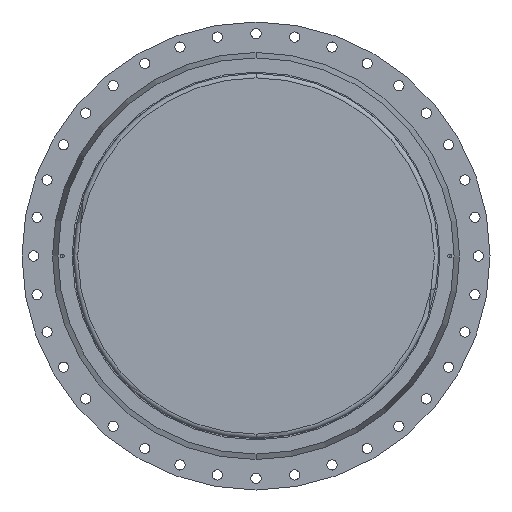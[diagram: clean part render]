
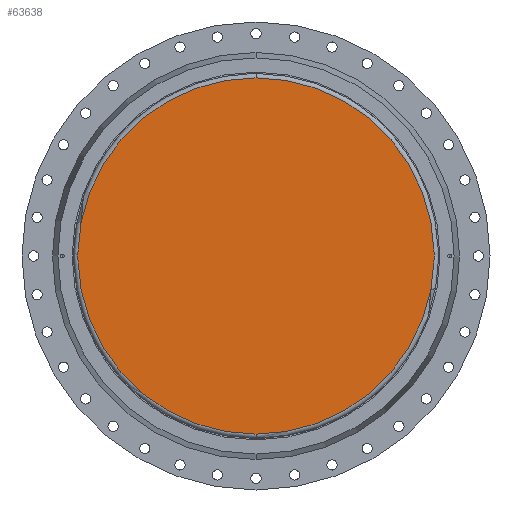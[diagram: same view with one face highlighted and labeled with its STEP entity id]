
A CAD part, front view. The second image highlights one B-rep face of the part: STEP entity #63638.
In plain terms, the highlighted planar face has unit normal (0, -1, 0).
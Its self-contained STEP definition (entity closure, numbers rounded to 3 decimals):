
#657 = VECTOR ( 'NONE', #97785, 1000. ) ;
#1973 = AXIS2_PLACEMENT_3D ( 'NONE', #83635, #181492, #97689 ) ;
#2120 = EDGE_CURVE ( 'NONE', #54075, #95984, #106269, .T. ) ;
#2535 = CARTESIAN_POINT ( 'NONE',  ( -624.953, -1805., 13.822 ) ) ;
#3917 = CARTESIAN_POINT ( 'NONE',  ( 624.845, -1805., -13.908 ) ) ;
#5657 = AXIS2_PLACEMENT_3D ( 'NONE', #143360, #59430, #157465 ) ;
#7224 = CARTESIAN_POINT ( 'NONE',  ( -625., -1805., 13.91 ) ) ;
#7402 = VERTEX_POINT ( 'NONE', #136288 ) ;
#7423 = CIRCLE ( 'NONE', #147427, 625. ) ;
#10327 = CARTESIAN_POINT ( 'NONE',  ( 625., -1805., -13.785 ) ) ;
#10462 = CARTESIAN_POINT ( 'NONE',  ( 624.953, -1805., 13.822 ) ) ;
#13560 = EDGE_CURVE ( 'NONE', #77395, #54075, #145345, .T. ) ;
#13851 = CARTESIAN_POINT ( 'NONE',  ( 625., -1805., 13.785 ) ) ;
#14174 = EDGE_CURVE ( 'NONE', #90483, #48086, #103335, .T. ) ;
#15875 = CARTESIAN_POINT ( 'NONE',  ( -624.953, -1805., -13.822 ) ) ;
#15933 = ORIENTED_EDGE ( 'NONE', *, *, #114416, .F. ) ;
#17437 = DIRECTION ( 'NONE',  ( 0., 1., 0. ) ) ;
#19658 = EDGE_CURVE ( 'NONE', #46601, #168996, #48098, .T. ) ;
#21695 = ORIENTED_EDGE ( 'NONE', *, *, #14174, .F. ) ;
#21838 = CARTESIAN_POINT ( 'NONE',  ( 0., -1805., 0. ) ) ;
#26006 = VERTEX_POINT ( 'NONE', #115830 ) ;
#26746 = PLANE ( 'NONE',  #1973 ) ;
#27348 = CARTESIAN_POINT ( 'NONE',  ( -625., -1805., 13.91 ) ) ;
#28688 = CARTESIAN_POINT ( 'NONE',  ( -625., -1805., -13.785 ) ) ;
#30119 = CARTESIAN_POINT ( 'NONE',  ( -624.845, -1805., 13.908 ) ) ;
#31698 = VECTOR ( 'NONE', #166912, 1000. ) ;
#35736 = B_SPLINE_CURVE_WITH_KNOTS ( 'NONE', 3,
 ( #30119, #128196, #72329, #170407, #86521, #2535, #100537 ),
 .UNSPECIFIED., .F., .F.,
 ( 4, 3, 4 ),
 ( 0., 0., 0. ),
 .UNSPECIFIED. ) ;
#35822 = DIRECTION ( 'NONE',  ( 0., 0., 1. ) ) ;
#38565 = CARTESIAN_POINT ( 'NONE',  ( 624.86, -1805., 13.896 ) ) ;
#42676 = EDGE_CURVE ( 'NONE', #95984, #115082, #152016, .T. ) ;
#43111 = FACE_OUTER_BOUND ( 'NONE', #178765, .T. ) ;
#46601 = VERTEX_POINT ( 'NONE', #80375 ) ;
#48086 = VERTEX_POINT ( 'NONE', #172385 ) ;
#48098 = LINE ( 'NONE', #27348, #81078 ) ;
#48321 = B_SPLINE_CURVE_WITH_KNOTS ( 'NONE', 3,
 ( #3917, #87869, #144149, #60208, #158241, #74332, #172328 ),
 .UNSPECIFIED., .F., .F.,
 ( 4, 3, 4 ),
 ( 0., 0., 0. ),
 .UNSPECIFIED. ) ;
#52599 = CARTESIAN_POINT ( 'NONE',  ( 624.85, -1805., 13.904 ) ) ;
#54075 = VERTEX_POINT ( 'NONE', #84626 ) ;
#58027 = CARTESIAN_POINT ( 'NONE',  ( -624.86, -1805., -13.896 ) ) ;
#58084 = CIRCLE ( 'NONE', #5657, 625. ) ;
#59430 = DIRECTION ( 'NONE',  ( 0., 1., 0. ) ) ;
#60208 = CARTESIAN_POINT ( 'NONE',  ( 624.86, -1805., -13.896 ) ) ;
#60963 = EDGE_CURVE ( 'NONE', #26006, #168996, #35736, .T. ) ;
#61157 = ORIENTED_EDGE ( 'NONE', *, *, #164087, .F. ) ;
#63638 = ADVANCED_FACE ( 'NONE', ( #43111 ), #26746, .T. ) ;
#63707 = DIRECTION ( 'NONE',  ( 0., 1., 0. ) ) ;
#64492 = CARTESIAN_POINT ( 'NONE',  ( -625., -1805., 13.785 ) ) ;
#72110 = CARTESIAN_POINT ( 'NONE',  ( -624.85, -1805., -13.904 ) ) ;
#72329 = CARTESIAN_POINT ( 'NONE',  ( -624.855, -1805., 13.9 ) ) ;
#74332 = CARTESIAN_POINT ( 'NONE',  ( 624.953, -1805., -13.822 ) ) ;
#74845 = ORIENTED_EDGE ( 'NONE', *, *, #84725, .F. ) ;
#76426 = ORIENTED_EDGE ( 'NONE', *, *, #13560, .T. ) ;
#77042 = DIRECTION ( 'NONE',  ( 0., 0., 1. ) ) ;
#77395 = VERTEX_POINT ( 'NONE', #10327 ) ;
#77750 = ORIENTED_EDGE ( 'NONE', *, *, #177002, .T. ) ;
#79272 = CARTESIAN_POINT ( 'NONE',  ( 0., -1805., -625. ) ) ;
#80375 = CARTESIAN_POINT ( 'NONE',  ( -625., -1805., 0. ) ) ;
#81078 = VECTOR ( 'NONE', #169961, 1000. ) ;
#83635 = CARTESIAN_POINT ( 'NONE',  ( -625., -1805., 0. ) ) ;
#84626 = CARTESIAN_POINT ( 'NONE',  ( 625., -1805., 0. ) ) ;
#84725 = EDGE_CURVE ( 'NONE', #7402, #90483, #126453, .T. ) ;
#85953 = CARTESIAN_POINT ( 'NONE',  ( 0., -1805., 625. ) ) ;
#86521 = CARTESIAN_POINT ( 'NONE',  ( -624.907, -1805., 13.859 ) ) ;
#87869 = CARTESIAN_POINT ( 'NONE',  ( 624.85, -1805., -13.904 ) ) ;
#90483 = VERTEX_POINT ( 'NONE', #79272 ) ;
#90805 = EDGE_CURVE ( 'NONE', #26006, #135183, #58084, .T. ) ;
#95984 = VERTEX_POINT ( 'NONE', #13851 ) ;
#96130 = ORIENTED_EDGE ( 'NONE', *, *, #42676, .T. ) ;
#97689 = DIRECTION ( 'NONE',  ( 0., 0., -1. ) ) ;
#97785 = DIRECTION ( 'NONE',  ( 0., 0., 1. ) ) ;
#100537 = CARTESIAN_POINT ( 'NONE',  ( -625., -1805., 13.785 ) ) ;
#101220 = CARTESIAN_POINT ( 'NONE',  ( 0., -1805., 0. ) ) ;
#101820 = B_SPLINE_CURVE_WITH_KNOTS ( 'NONE', 3,
 ( #113837, #15875, #141972, #58027, #156044, #72110, #170179 ),
 .UNSPECIFIED., .F., .F.,
 ( 4, 3, 4 ),
 ( 0., 0., 0. ),
 .UNSPECIFIED. ) ;
#103335 = CIRCLE ( 'NONE', #107005, 625. ) ;
#106269 = LINE ( 'NONE', #162941, #31698 ) ;
#107005 = AXIS2_PLACEMENT_3D ( 'NONE', #101220, #17437, #115344 ) ;
#113837 = CARTESIAN_POINT ( 'NONE',  ( -625., -1805., -13.785 ) ) ;
#114416 = EDGE_CURVE ( 'NONE', #135183, #115082, #7423, .T. ) ;
#115082 = VERTEX_POINT ( 'NONE', #148631 ) ;
#115344 = DIRECTION ( 'NONE',  ( 0., 0., 1. ) ) ;
#115830 = CARTESIAN_POINT ( 'NONE',  ( -624.845, -1805., 13.908 ) ) ;
#116360 = VECTOR ( 'NONE', #77042, 1000. ) ;
#119775 = DIRECTION ( 'NONE',  ( 0., 1., 0. ) ) ;
#120784 = LINE ( 'NONE', #7224, #116360 ) ;
#122495 = CARTESIAN_POINT ( 'NONE',  ( 625., -1805., 13.785 ) ) ;
#122844 = ORIENTED_EDGE ( 'NONE', *, *, #60963, .T. ) ;
#126453 = CIRCLE ( 'NONE', #144046, 625. ) ;
#128196 = CARTESIAN_POINT ( 'NONE',  ( -624.85, -1805., 13.904 ) ) ;
#130193 = EDGE_CURVE ( 'NONE', #7402, #77395, #48321, .T. ) ;
#130401 = ORIENTED_EDGE ( 'NONE', *, *, #2120, .T. ) ;
#135183 = VERTEX_POINT ( 'NONE', #85953 ) ;
#136288 = CARTESIAN_POINT ( 'NONE',  ( 624.845, -1805., -13.908 ) ) ;
#136545 = CARTESIAN_POINT ( 'NONE',  ( 624.855, -1805., 13.9 ) ) ;
#138840 = CARTESIAN_POINT ( 'NONE',  ( 625., -1805., 13.91 ) ) ;
#141972 = CARTESIAN_POINT ( 'NONE',  ( -624.907, -1805., -13.859 ) ) ;
#143360 = CARTESIAN_POINT ( 'NONE',  ( 0., -1805., 0. ) ) ;
#144046 = AXIS2_PLACEMENT_3D ( 'NONE', #21838, #119775, #35822 ) ;
#144149 = CARTESIAN_POINT ( 'NONE',  ( 624.855, -1805., -13.9 ) ) ;
#144738 = ORIENTED_EDGE ( 'NONE', *, *, #90805, .F. ) ;
#145345 = LINE ( 'NONE', #138840, #657 ) ;
#145522 = ORIENTED_EDGE ( 'NONE', *, *, #130193, .T. ) ;
#147427 = AXIS2_PLACEMENT_3D ( 'NONE', #147605, #63707, #161750 ) ;
#147605 = CARTESIAN_POINT ( 'NONE',  ( 0., -1805., 0. ) ) ;
#148631 = CARTESIAN_POINT ( 'NONE',  ( 624.845, -1805., 13.908 ) ) ;
#150004 = CARTESIAN_POINT ( 'NONE',  ( 624.907, -1805., 13.859 ) ) ;
#150604 = CARTESIAN_POINT ( 'NONE',  ( 624.845, -1805., 13.908 ) ) ;
#152016 = B_SPLINE_CURVE_WITH_KNOTS ( 'NONE', 3,
 ( #122495, #10462, #150004, #38565, #136545, #52599, #150604 ),
 .UNSPECIFIED., .F., .F.,
 ( 4, 3, 4 ),
 ( 0., 0., 0. ),
 .UNSPECIFIED. ) ;
#156044 = CARTESIAN_POINT ( 'NONE',  ( -624.855, -1805., -13.9 ) ) ;
#157465 = DIRECTION ( 'NONE',  ( 0., 0., 1. ) ) ;
#158241 = CARTESIAN_POINT ( 'NONE',  ( 624.907, -1805., -13.859 ) ) ;
#161750 = DIRECTION ( 'NONE',  ( 0., 0., 1. ) ) ;
#162941 = CARTESIAN_POINT ( 'NONE',  ( 625., -1805., 13.91 ) ) ;
#164087 = EDGE_CURVE ( 'NONE', #166976, #46601, #120784, .T. ) ;
#166912 = DIRECTION ( 'NONE',  ( 0., 0., 1. ) ) ;
#166976 = VERTEX_POINT ( 'NONE', #28688 ) ;
#168996 = VERTEX_POINT ( 'NONE', #64492 ) ;
#169961 = DIRECTION ( 'NONE',  ( 0., 0., 1. ) ) ;
#170179 = CARTESIAN_POINT ( 'NONE',  ( -624.845, -1805., -13.908 ) ) ;
#170407 = CARTESIAN_POINT ( 'NONE',  ( -624.86, -1805., 13.896 ) ) ;
#172328 = CARTESIAN_POINT ( 'NONE',  ( 625., -1805., -13.785 ) ) ;
#172385 = CARTESIAN_POINT ( 'NONE',  ( -624.845, -1805., -13.908 ) ) ;
#175602 = ORIENTED_EDGE ( 'NONE', *, *, #19658, .F. ) ;
#177002 = EDGE_CURVE ( 'NONE', #166976, #48086, #101820, .T. ) ;
#178765 = EDGE_LOOP ( 'NONE', ( #76426, #130401, #96130, #15933, #144738, #122844, #175602, #61157, #77750, #21695, #74845, #145522 ) ) ;
#181492 = DIRECTION ( 'NONE',  ( 0., -1., 0. ) ) ;
